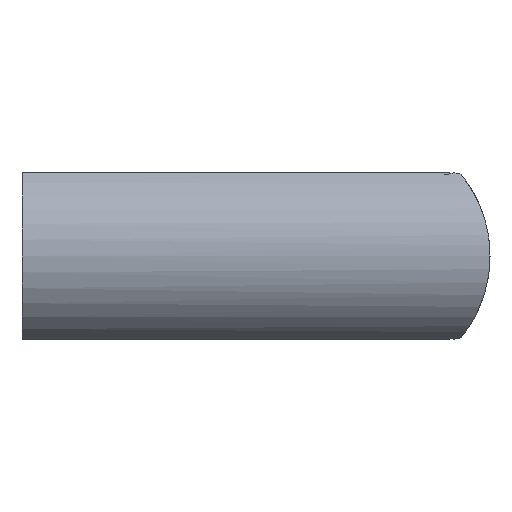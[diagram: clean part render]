
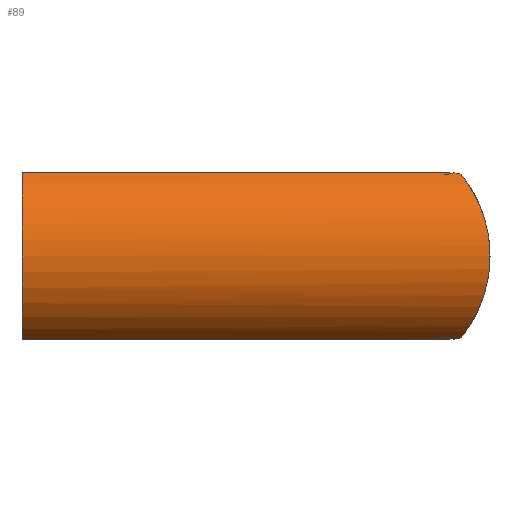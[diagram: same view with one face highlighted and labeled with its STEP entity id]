
A CAD part, left-side view. The second image highlights one B-rep face of the part: STEP entity #89.
In plain terms, the highlighted cylindrical face has radius 6.542 mm (diameter 13.083 mm), a partial arc.
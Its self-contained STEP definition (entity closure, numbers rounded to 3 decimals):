
#89 = ADVANCED_FACE( '', ( #132 ), #133, .T. );
#132 = FACE_OUTER_BOUND( '', #190, .T. );
#133 = CYLINDRICAL_SURFACE( '', #191, 6.542 );
#190 = EDGE_LOOP( '', ( #320, #321, #322, #323, #324, #325, #326, #327, #328, #329, #330 ) );
#191 = AXIS2_PLACEMENT_3D( '', #331, #332, #333 );
#320 = ORIENTED_EDGE( '', *, *, #482, .T. );
#321 = ORIENTED_EDGE( '', *, *, #496, .F. );
#322 = ORIENTED_EDGE( '', *, *, #497, .F. );
#323 = ORIENTED_EDGE( '', *, *, #498, .T. );
#324 = ORIENTED_EDGE( '', *, *, #478, .T. );
#325 = ORIENTED_EDGE( '', *, *, #472, .F. );
#326 = ORIENTED_EDGE( '', *, *, #471, .F. );
#327 = ORIENTED_EDGE( '', *, *, #467, .F. );
#328 = ORIENTED_EDGE( '', *, *, #466, .F. );
#329 = ORIENTED_EDGE( '', *, *, #499, .F. );
#330 = ORIENTED_EDGE( '', *, *, #500, .F. );
#331 = CARTESIAN_POINT( '', ( -2.958, 0., 0. ) );
#332 = DIRECTION( '', ( 0., 1., 0. ) );
#333 = DIRECTION( '', ( -0.541, 0., -0.841 ) );
#466 = EDGE_CURVE( '', #549, #551, #552, .T. );
#467 = EDGE_CURVE( '', #551, #553, #554, .T. );
#471 = EDGE_CURVE( '', #553, #560, #561, .T. );
#472 = EDGE_CURVE( '', #560, #562, #563, .T. );
#478 = EDGE_CURVE( '', #571, #562, #573, .T. );
#482 = EDGE_CURVE( '', #580, #577, #581, .T. );
#496 = EDGE_CURVE( '', #604, #577, #606, .T. );
#497 = EDGE_CURVE( '', #607, #604, #608, .T. );
#498 = EDGE_CURVE( '', #607, #571, #609, .T. );
#499 = EDGE_CURVE( '', #610, #549, #611, .T. );
#500 = EDGE_CURVE( '', #580, #610, #612, .T. );
#549 = VERTEX_POINT( '', #690 );
#551 = VERTEX_POINT( '', #693 );
#552 = B_SPLINE_CURVE_WITH_KNOTS( '', 3, ( #694, #695, #696, #697, #698, #699, #700, #701, #702, #703, #704, #705, #706, #707 ), .UNSPECIFIED., .F., .F., ( 4, 2, 2, 2, 2, 2, 4 ), ( 2.807, 3.611, 4.815, 5.915, 7.015, 8.114, 9.214 ), .UNSPECIFIED. );
#553 = VERTEX_POINT( '', #708 );
#554 = B_SPLINE_CURVE_WITH_KNOTS( '', 3, ( #709, #710, #711, #712, #713, #714, #715, #716, #717, #718, #719, #720, #721, #722 ), .UNSPECIFIED., .F., .F., ( 4, 2, 2, 2, 2, 2, 4 ), ( 9.214, 10.314, 11.414, 12.513, 13.613, 14.817, 15.621 ), .UNSPECIFIED. );
#560 = VERTEX_POINT( '', #749 );
#561 = B_SPLINE_CURVE_WITH_KNOTS( '', 3, ( #750, #751, #752, #753, #754, #755, #756, #757 ), .UNSPECIFIED., .F., .F., ( 4, 2, 2, 4 ), ( -0.5, -0.449, -0.224, 0. ), .UNSPECIFIED. );
#562 = VERTEX_POINT( '', #758 );
#563 = B_SPLINE_CURVE_WITH_KNOTS( '', 3, ( #759, #760, #761, #762, #763, #764 ), .UNSPECIFIED., .F., .F., ( 4, 2, 4 ), ( 0., 0.195, 0.356 ), .UNSPECIFIED. );
#571 = VERTEX_POINT( '', #780 );
#573 = CIRCLE( '', #783, 6.542 );
#577 = VERTEX_POINT( '', #788 );
#580 = VERTEX_POINT( '', #792 );
#581 = CIRCLE( '', #793, 6.542 );
#604 = VERTEX_POINT( '', #823 );
#606 = LINE( '', #826, #827 );
#607 = VERTEX_POINT( '', #828 );
#608 = CIRCLE( '', #829, 6.542 );
#609 = LINE( '', #830, #831 );
#610 = VERTEX_POINT( '', #832 );
#611 = B_SPLINE_CURVE_WITH_KNOTS( '', 3, ( #833, #834, #835, #836, #837, #838, #839, #840 ), .UNSPECIFIED., .F., .F., ( 4, 2, 2, 4 ), ( 3.673, 3.898, 4.122, 4.173 ), .UNSPECIFIED. );
#612 = B_SPLINE_CURVE_WITH_KNOTS( '', 3, ( #841, #842, #843, #844, #845, #846 ), .UNSPECIFIED., .F., .F., ( 4, 2, 4 ), ( 3.317, 3.479, 3.673 ), .UNSPECIFIED. );
#690 = CARTESIAN_POINT( '', ( -6.66, -29.088, 5.394 ) );
#693 = CARTESIAN_POINT( '', ( -9.5, -31., 0. ) );
#694 = CARTESIAN_POINT( '', ( -6.66, -29.088, 5.394 ) );
#695 = CARTESIAN_POINT( '', ( -6.874, -29.207, 5.247 ) );
#696 = CARTESIAN_POINT( '', ( -7.078, -29.328, 5.088 ) );
#697 = CARTESIAN_POINT( '', ( -7.56, -29.624, 4.666 ) );
#698 = CARTESIAN_POINT( '', ( -7.822, -29.796, 4.39 ) );
#699 = CARTESIAN_POINT( '', ( -8.265, -30.097, 3.84 ) );
#700 = CARTESIAN_POINT( '', ( -8.467, -30.238, 3.547 ) );
#701 = CARTESIAN_POINT( '', ( -8.827, -30.496, 2.914 ) );
#702 = CARTESIAN_POINT( '', ( -8.985, -30.613, 2.573 ) );
#703 = CARTESIAN_POINT( '', ( -9.241, -30.803, 1.862 ) );
#704 = CARTESIAN_POINT( '', ( -9.339, -30.877, 1.492 ) );
#705 = CARTESIAN_POINT( '', ( -9.469, -30.976, 0.744 ) );
#706 = CARTESIAN_POINT( '', ( -9.5, -31., 0.367 ) );
#707 = CARTESIAN_POINT( '', ( -9.5, -31., 0. ) );
#708 = CARTESIAN_POINT( '', ( -6.66, -29.088, -5.394 ) );
#709 = CARTESIAN_POINT( '', ( -9.5, -31., 0. ) );
#710 = CARTESIAN_POINT( '', ( -9.5, -31., -0.367 ) );
#711 = CARTESIAN_POINT( '', ( -9.469, -30.976, -0.744 ) );
#712 = CARTESIAN_POINT( '', ( -9.339, -30.877, -1.492 ) );
#713 = CARTESIAN_POINT( '', ( -9.241, -30.803, -1.862 ) );
#714 = CARTESIAN_POINT( '', ( -8.985, -30.613, -2.573 ) );
#715 = CARTESIAN_POINT( '', ( -8.827, -30.496, -2.914 ) );
#716 = CARTESIAN_POINT( '', ( -8.467, -30.238, -3.547 ) );
#717 = CARTESIAN_POINT( '', ( -8.265, -30.097, -3.84 ) );
#718 = CARTESIAN_POINT( '', ( -7.822, -29.796, -4.39 ) );
#719 = CARTESIAN_POINT( '', ( -7.56, -29.624, -4.666 ) );
#720 = CARTESIAN_POINT( '', ( -7.078, -29.328, -5.088 ) );
#721 = CARTESIAN_POINT( '', ( -6.874, -29.207, -5.247 ) );
#722 = CARTESIAN_POINT( '', ( -6.66, -29.088, -5.394 ) );
#749 = CARTESIAN_POINT( '', ( -6.5, -28.639, -5.5 ) );
#750 = CARTESIAN_POINT( '', ( -6.66, -29.088, -5.394 ) );
#751 = CARTESIAN_POINT( '', ( -6.65, -29.075, -5.4 ) );
#752 = CARTESIAN_POINT( '', ( -6.641, -29.061, -5.407 ) );
#753 = CARTESIAN_POINT( '', ( -6.592, -28.988, -5.44 ) );
#754 = CARTESIAN_POINT( '', ( -6.559, -28.923, -5.461 ) );
#755 = CARTESIAN_POINT( '', ( -6.513, -28.786, -5.492 ) );
#756 = CARTESIAN_POINT( '', ( -6.5, -28.714, -5.5 ) );
#757 = CARTESIAN_POINT( '', ( -6.5, -28.639, -5.5 ) );
#758 = CARTESIAN_POINT( '', ( -6.589, -28.302, -5.442 ) );
#759 = CARTESIAN_POINT( '', ( -6.5, -28.639, -5.5 ) );
#760 = CARTESIAN_POINT( '', ( -6.5, -28.574, -5.5 ) );
#761 = CARTESIAN_POINT( '', ( -6.51, -28.51, -5.494 ) );
#762 = CARTESIAN_POINT( '', ( -6.543, -28.398, -5.472 ) );
#763 = CARTESIAN_POINT( '', ( -6.564, -28.349, -5.458 ) );
#764 = CARTESIAN_POINT( '', ( -6.589, -28.302, -5.442 ) );
#780 = CARTESIAN_POINT( '', ( -6.5, -28.302, -5.5 ) );
#783 = AXIS2_PLACEMENT_3D( '', #992, #993, #994 );
#788 = CARTESIAN_POINT( '', ( -6.5, -28.302, 5.5 ) );
#792 = CARTESIAN_POINT( '', ( -6.589, -28.302, 5.442 ) );
#793 = AXIS2_PLACEMENT_3D( '', #1000, #1001, #1002 );
#823 = CARTESIAN_POINT( '', ( -6.5, 0., 5.5 ) );
#826 = CARTESIAN_POINT( '', ( -6.5, 0., 5.5 ) );
#827 = VECTOR( '', #1026, 1. );
#828 = CARTESIAN_POINT( '', ( -6.5, 0., -5.5 ) );
#829 = AXIS2_PLACEMENT_3D( '', #1027, #1028, #1029 );
#830 = CARTESIAN_POINT( '', ( -6.5, 0., -5.5 ) );
#831 = VECTOR( '', #1030, 1. );
#832 = CARTESIAN_POINT( '', ( -6.5, -28.639, 5.5 ) );
#833 = CARTESIAN_POINT( '', ( -6.5, -28.639, 5.5 ) );
#834 = CARTESIAN_POINT( '', ( -6.5, -28.714, 5.5 ) );
#835 = CARTESIAN_POINT( '', ( -6.513, -28.786, 5.492 ) );
#836 = CARTESIAN_POINT( '', ( -6.559, -28.923, 5.461 ) );
#837 = CARTESIAN_POINT( '', ( -6.592, -28.988, 5.44 ) );
#838 = CARTESIAN_POINT( '', ( -6.641, -29.061, 5.407 ) );
#839 = CARTESIAN_POINT( '', ( -6.65, -29.075, 5.4 ) );
#840 = CARTESIAN_POINT( '', ( -6.66, -29.088, 5.394 ) );
#841 = CARTESIAN_POINT( '', ( -6.589, -28.302, 5.442 ) );
#842 = CARTESIAN_POINT( '', ( -6.564, -28.349, 5.458 ) );
#843 = CARTESIAN_POINT( '', ( -6.543, -28.398, 5.472 ) );
#844 = CARTESIAN_POINT( '', ( -6.51, -28.51, 5.494 ) );
#845 = CARTESIAN_POINT( '', ( -6.5, -28.574, 5.5 ) );
#846 = CARTESIAN_POINT( '', ( -6.5, -28.639, 5.5 ) );
#992 = CARTESIAN_POINT( '', ( -2.958, -28.302, 0. ) );
#993 = DIRECTION( '', ( 0., 1., 0. ) );
#994 = DIRECTION( '', ( -0.541, 0., -0.841 ) );
#1000 = CARTESIAN_POINT( '', ( -2.958, -28.302, 0. ) );
#1001 = DIRECTION( '', ( 0., 1., 0. ) );
#1002 = DIRECTION( '', ( -0.541, 0., -0.841 ) );
#1026 = DIRECTION( '', ( 0., -1., 0. ) );
#1027 = CARTESIAN_POINT( '', ( -2.958, 0., 0. ) );
#1028 = DIRECTION( '', ( 0., 1., 0. ) );
#1029 = DIRECTION( '', ( -0.541, 0., -0.841 ) );
#1030 = DIRECTION( '', ( 0., -1., 0. ) );
